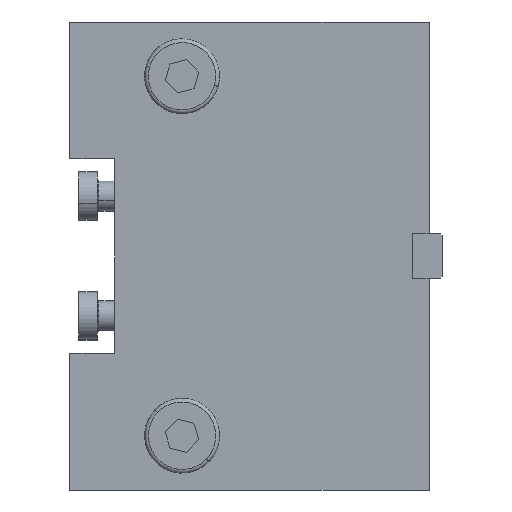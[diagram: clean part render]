
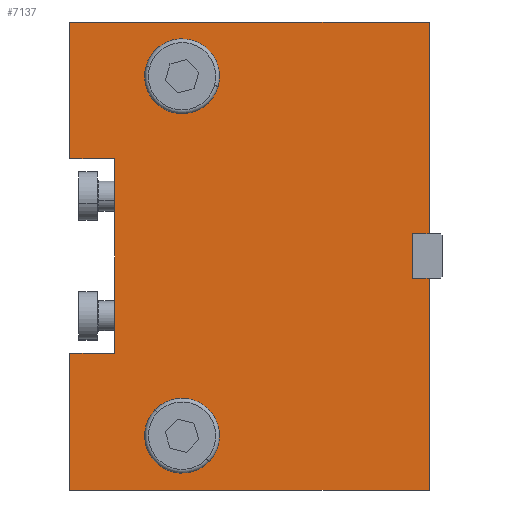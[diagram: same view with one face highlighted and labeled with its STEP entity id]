
A CAD part, front view. The second image highlights one B-rep face of the part: STEP entity #7137.
In plain terms, the highlighted planar face has unit normal (0, -1, 0).
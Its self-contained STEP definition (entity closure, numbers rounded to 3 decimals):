
#216 = EDGE_CURVE ( 'NONE', #17806, #12448, #13479, .T. ) ;
#382 = DIRECTION ( 'NONE',  ( 0., 0., 1. ) ) ;
#457 = VERTEX_POINT ( 'NONE', #18428 ) ;
#495 = CARTESIAN_POINT ( 'NONE',  ( 211.99, 0., -6. ) ) ;
#519 = DIRECTION ( 'NONE',  ( 0., 0., -1. ) ) ;
#629 = CARTESIAN_POINT ( 'NONE',  ( 146., 0., -40.2 ) ) ;
#647 = ORIENTED_EDGE ( 'NONE', *, *, #6737, .T. ) ;
#724 = FACE_BOUND ( 'NONE', #4658, .T. ) ;
#912 = FACE_OUTER_BOUND ( 'NONE', #9796, .T. ) ;
#919 = CIRCLE ( 'NONE', #7916, 7.8 ) ;
#1060 = LINE ( 'NONE', #14042, #13756 ) ;
#1247 = ORIENTED_EDGE ( 'NONE', *, *, #2761, .T. ) ;
#1313 = LINE ( 'NONE', #13155, #3741 ) ;
#1507 = EDGE_CURVE ( 'NONE', #4784, #9277, #18850, .T. ) ;
#1711 = ORIENTED_EDGE ( 'NONE', *, *, #13342, .F. ) ;
#1840 = CARTESIAN_POINT ( 'NONE',  ( 211.99, 0., -62.8 ) ) ;
#2008 = VERTEX_POINT ( 'NONE', #3495 ) ;
#2147 = CARTESIAN_POINT ( 'NONE',  ( 146., 0., 48. ) ) ;
#2244 = ORIENTED_EDGE ( 'NONE', *, *, #6456, .T. ) ;
#2431 = AXIS2_PLACEMENT_3D ( 'NONE', #7112, #6836, #15712 ) ;
#2510 = ORIENTED_EDGE ( 'NONE', *, *, #11359, .F. ) ;
#2709 = CARTESIAN_POINT ( 'NONE',  ( 211.99, 0., -62.8 ) ) ;
#2761 = EDGE_CURVE ( 'NONE', #457, #12288, #8847, .T. ) ;
#2796 = CARTESIAN_POINT ( 'NONE',  ( 207.5, 0., 6. ) ) ;
#3008 = EDGE_CURVE ( 'NONE', #9277, #4784, #919, .T. ) ;
#3214 = VECTOR ( 'NONE', #382, 1000. ) ;
#3221 = ORIENTED_EDGE ( 'NONE', *, *, #15939, .T. ) ;
#3347 = CARTESIAN_POINT ( 'NONE',  ( 116.01, 0., 62.5 ) ) ;
#3469 = DIRECTION ( 'NONE',  ( 0., 1., 0. ) ) ;
#3495 = CARTESIAN_POINT ( 'NONE',  ( 116.01, 0., -62.5 ) ) ;
#3634 = DIRECTION ( 'NONE',  ( -1., 0., 0. ) ) ;
#3741 = VECTOR ( 'NONE', #16018, 1000. ) ;
#4088 = EDGE_CURVE ( 'NONE', #18872, #12341, #13021, .T. ) ;
#4215 = EDGE_CURVE ( 'NONE', #17806, #16662, #6320, .T. ) ;
#4583 = EDGE_CURVE ( 'NONE', #17412, #2008, #11840, .T. ) ;
#4658 = EDGE_LOOP ( 'NONE', ( #1247, #5778 ) ) ;
#4784 = VERTEX_POINT ( 'NONE', #11932 ) ;
#4801 = DIRECTION ( 'NONE',  ( 0., 1., 0. ) ) ;
#4822 = EDGE_LOOP ( 'NONE', ( #16701, #13772 ) ) ;
#4897 = DIRECTION ( 'NONE',  ( 0., 0., -1. ) ) ;
#5011 = DIRECTION ( 'NONE',  ( 0., -1., 0. ) ) ;
#5570 = LINE ( 'NONE', #18389, #18829 ) ;
#5778 = ORIENTED_EDGE ( 'NONE', *, *, #13362, .T. ) ;
#6320 = LINE ( 'NONE', #6515, #15887 ) ;
#6444 = CARTESIAN_POINT ( 'NONE',  ( 212.2, 0., 62.8 ) ) ;
#6456 = EDGE_CURVE ( 'NONE', #17412, #11567, #8346, .T. ) ;
#6515 = CARTESIAN_POINT ( 'NONE',  ( 211.99, 0., 6. ) ) ;
#6543 = FACE_BOUND ( 'NONE', #4822, .T. ) ;
#6641 = PLANE ( 'NONE',  #11252 ) ;
#6704 = CARTESIAN_POINT ( 'NONE',  ( 116.01, 0., -26. ) ) ;
#6737 = EDGE_CURVE ( 'NONE', #15684, #10123, #1313, .T. ) ;
#6778 = CARTESIAN_POINT ( 'NONE',  ( 211.99, 0., -6. ) ) ;
#6836 = DIRECTION ( 'NONE',  ( 0., 1., 0. ) ) ;
#6985 = LINE ( 'NONE', #2796, #9851 ) ;
#7058 = VECTOR ( 'NONE', #11221, 1000. ) ;
#7112 = CARTESIAN_POINT ( 'NONE',  ( 146., 0., -48. ) ) ;
#7137 = ADVANCED_FACE ( 'NONE', ( #724, #6543, #912 ), #6641, .T. ) ;
#7695 = ORIENTED_EDGE ( 'NONE', *, *, #4088, .F. ) ;
#7863 = CARTESIAN_POINT ( 'NONE',  ( 146., 0., -48. ) ) ;
#7916 = AXIS2_PLACEMENT_3D ( 'NONE', #2147, #3469, #519 ) ;
#7946 = LINE ( 'NONE', #495, #12985 ) ;
#8068 = VECTOR ( 'NONE', #8669, 1000. ) ;
#8087 = EDGE_CURVE ( 'NONE', #18872, #2008, #1060, .T. ) ;
#8088 = ORIENTED_EDGE ( 'NONE', *, *, #4583, .F. ) ;
#8346 = LINE ( 'NONE', #2709, #15956 ) ;
#8447 = CARTESIAN_POINT ( 'NONE',  ( 115.8, 0., -26. ) ) ;
#8495 = EDGE_CURVE ( 'NONE', #11567, #15343, #7946, .T. ) ;
#8593 = CARTESIAN_POINT ( 'NONE',  ( 207.5, 0., 6. ) ) ;
#8669 = DIRECTION ( 'NONE',  ( 1., 0., 0. ) ) ;
#8770 = ORIENTED_EDGE ( 'NONE', *, *, #4215, .F. ) ;
#8836 = CARTESIAN_POINT ( 'NONE',  ( 207.5, 0., -6. ) ) ;
#8847 = CIRCLE ( 'NONE', #2431, 7.8 ) ;
#8921 = CARTESIAN_POINT ( 'NONE',  ( 211.99, 0., 62.5 ) ) ;
#9017 = CARTESIAN_POINT ( 'NONE',  ( 211.99, 0., -62.5 ) ) ;
#9277 = VERTEX_POINT ( 'NONE', #9972 ) ;
#9679 = ORIENTED_EDGE ( 'NONE', *, *, #8495, .T. ) ;
#9796 = EDGE_LOOP ( 'NONE', ( #2510, #8770, #10714, #3221, #647, #16771, #1711, #7695, #16135, #8088, #2244, #9679 ) ) ;
#9851 = VECTOR ( 'NONE', #18721, 1000. ) ;
#9972 = CARTESIAN_POINT ( 'NONE',  ( 146., 0., 40.2 ) ) ;
#10123 = VERTEX_POINT ( 'NONE', #12856 ) ;
#10479 = LINE ( 'NONE', #16084, #13058 ) ;
#10522 = CARTESIAN_POINT ( 'NONE',  ( 128., 0., 26. ) ) ;
#10640 = AXIS2_PLACEMENT_3D ( 'NONE', #17900, #4801, #16461 ) ;
#10663 = VERTEX_POINT ( 'NONE', #10522 ) ;
#10714 = ORIENTED_EDGE ( 'NONE', *, *, #216, .T. ) ;
#11221 = DIRECTION ( 'NONE',  ( 1., 0., 0. ) ) ;
#11252 = AXIS2_PLACEMENT_3D ( 'NONE', #6444, #5011, #18278 ) ;
#11359 = EDGE_CURVE ( 'NONE', #16662, #15343, #6985, .T. ) ;
#11567 = VERTEX_POINT ( 'NONE', #6778 ) ;
#11840 = LINE ( 'NONE', #13355, #18126 ) ;
#11932 = CARTESIAN_POINT ( 'NONE',  ( 146., 0., 55.8 ) ) ;
#11983 = EDGE_CURVE ( 'NONE', #10123, #10663, #16006, .T. ) ;
#12108 = CARTESIAN_POINT ( 'NONE',  ( 211.99, 0., 6. ) ) ;
#12286 = CIRCLE ( 'NONE', #13808, 7.8 ) ;
#12288 = VERTEX_POINT ( 'NONE', #629 ) ;
#12341 = VERTEX_POINT ( 'NONE', #17108 ) ;
#12448 = VERTEX_POINT ( 'NONE', #8921 ) ;
#12856 = CARTESIAN_POINT ( 'NONE',  ( 116.01, 0., 26. ) ) ;
#12985 = VECTOR ( 'NONE', #3634, 1000. ) ;
#13021 = LINE ( 'NONE', #8447, #7058 ) ;
#13058 = VECTOR ( 'NONE', #14728, 1000. ) ;
#13155 = CARTESIAN_POINT ( 'NONE',  ( 116.01, 0., -62.8 ) ) ;
#13342 = EDGE_CURVE ( 'NONE', #12341, #10663, #10479, .T. ) ;
#13355 = CARTESIAN_POINT ( 'NONE',  ( 116.01, 0., -62.5 ) ) ;
#13362 = EDGE_CURVE ( 'NONE', #12288, #457, #12286, .T. ) ;
#13479 = LINE ( 'NONE', #1840, #3214 ) ;
#13756 = VECTOR ( 'NONE', #16818, 1000. ) ;
#13772 = ORIENTED_EDGE ( 'NONE', *, *, #1507, .T. ) ;
#13808 = AXIS2_PLACEMENT_3D ( 'NONE', #7863, #17989, #4897 ) ;
#14042 = CARTESIAN_POINT ( 'NONE',  ( 116.01, 0., -62.8 ) ) ;
#14150 = DIRECTION ( 'NONE',  ( 0., 0., 1. ) ) ;
#14728 = DIRECTION ( 'NONE',  ( 0., 0., 1. ) ) ;
#15343 = VERTEX_POINT ( 'NONE', #8836 ) ;
#15684 = VERTEX_POINT ( 'NONE', #3347 ) ;
#15712 = DIRECTION ( 'NONE',  ( 0., 0., -1. ) ) ;
#15887 = VECTOR ( 'NONE', #18076, 1000. ) ;
#15939 = EDGE_CURVE ( 'NONE', #12448, #15684, #5570, .T. ) ;
#15956 = VECTOR ( 'NONE', #14150, 1000. ) ;
#16006 = LINE ( 'NONE', #18501, #8068 ) ;
#16018 = DIRECTION ( 'NONE',  ( 0., 0., -1. ) ) ;
#16084 = CARTESIAN_POINT ( 'NONE',  ( 128., 0., -26. ) ) ;
#16135 = ORIENTED_EDGE ( 'NONE', *, *, #8087, .T. ) ;
#16461 = DIRECTION ( 'NONE',  ( 0., 0., -1. ) ) ;
#16662 = VERTEX_POINT ( 'NONE', #8593 ) ;
#16701 = ORIENTED_EDGE ( 'NONE', *, *, #3008, .T. ) ;
#16771 = ORIENTED_EDGE ( 'NONE', *, *, #11983, .T. ) ;
#16818 = DIRECTION ( 'NONE',  ( 0., 0., -1. ) ) ;
#17108 = CARTESIAN_POINT ( 'NONE',  ( 128., 0., -26. ) ) ;
#17412 = VERTEX_POINT ( 'NONE', #9017 ) ;
#17560 = DIRECTION ( 'NONE',  ( -1., 0., 0. ) ) ;
#17806 = VERTEX_POINT ( 'NONE', #12108 ) ;
#17900 = CARTESIAN_POINT ( 'NONE',  ( 146., 0., 48. ) ) ;
#17989 = DIRECTION ( 'NONE',  ( 0., 1., 0. ) ) ;
#18076 = DIRECTION ( 'NONE',  ( -1., 0., 0. ) ) ;
#18126 = VECTOR ( 'NONE', #17560, 1000. ) ;
#18278 = DIRECTION ( 'NONE',  ( 0., 0., -1. ) ) ;
#18389 = CARTESIAN_POINT ( 'NONE',  ( 116.01, 0., 62.5 ) ) ;
#18428 = CARTESIAN_POINT ( 'NONE',  ( 146., 0., -55.8 ) ) ;
#18501 = CARTESIAN_POINT ( 'NONE',  ( 115.8, 0., 26. ) ) ;
#18721 = DIRECTION ( 'NONE',  ( 0., 0., -1. ) ) ;
#18768 = DIRECTION ( 'NONE',  ( -1., 0., 0. ) ) ;
#18829 = VECTOR ( 'NONE', #18768, 1000. ) ;
#18850 = CIRCLE ( 'NONE', #10640, 7.8 ) ;
#18872 = VERTEX_POINT ( 'NONE', #6704 ) ;
